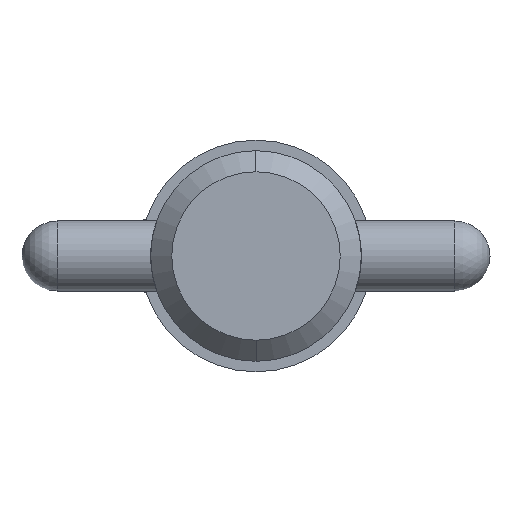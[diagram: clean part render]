
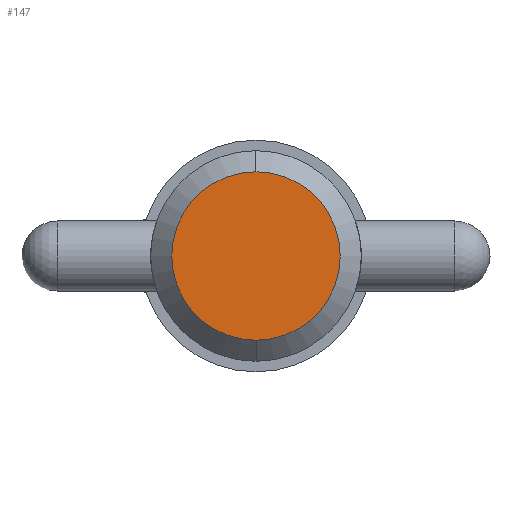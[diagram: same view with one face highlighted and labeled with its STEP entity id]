
A CAD part, left-side view. The second image highlights one B-rep face of the part: STEP entity #147.
In plain terms, the highlighted planar face has unit normal (-1, 0, 0).
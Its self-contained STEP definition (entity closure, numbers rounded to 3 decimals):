
#20 = DIRECTION ( 'NONE',  ( 1., 0., 0. ) ) ;
#27 = CARTESIAN_POINT ( 'NONE',  ( 0., 0., 5.716 ) ) ;
#59 = DIRECTION ( 'NONE',  ( 0., 0., -1. ) ) ;
#93 = CARTESIAN_POINT ( 'NONE',  ( 0., 0., 0. ) ) ;
#147 = ADVANCED_FACE ( 'NONE', ( #808 ), #483, .T. ) ;
#287 = EDGE_CURVE ( 'NONE', #451, #742, #502, .T. ) ;
#339 = CARTESIAN_POINT ( 'NONE',  ( 0., 0., -5.716 ) ) ;
#365 = AXIS2_PLACEMENT_3D ( 'NONE', #967, #20, #664 ) ;
#451 = VERTEX_POINT ( 'NONE', #27 ) ;
#467 = CARTESIAN_POINT ( 'NONE',  ( 0., 0., 0. ) ) ;
#483 = PLANE ( 'NONE',  #894 ) ;
#502 = CIRCLE ( 'NONE', #365, 5.716 ) ;
#592 = EDGE_CURVE ( 'NONE', #742, #451, #911, .T. ) ;
#624 = DIRECTION ( 'NONE',  ( 1., 0., 0. ) ) ;
#637 = AXIS2_PLACEMENT_3D ( 'NONE', #467, #624, #59 ) ;
#664 = DIRECTION ( 'NONE',  ( 0., 0., -1. ) ) ;
#694 = EDGE_LOOP ( 'NONE', ( #982, #842 ) ) ;
#742 = VERTEX_POINT ( 'NONE', #339 ) ;
#746 = DIRECTION ( 'NONE',  ( -1., 0., 0. ) ) ;
#808 = FACE_OUTER_BOUND ( 'NONE', #694, .T. ) ;
#842 = ORIENTED_EDGE ( 'NONE', *, *, #287, .F. ) ;
#891 = DIRECTION ( 'NONE',  ( 0., 0., 1. ) ) ;
#894 = AXIS2_PLACEMENT_3D ( 'NONE', #93, #746, #891 ) ;
#911 = CIRCLE ( 'NONE', #637, 5.716 ) ;
#967 = CARTESIAN_POINT ( 'NONE',  ( 0., 0., 0. ) ) ;
#982 = ORIENTED_EDGE ( 'NONE', *, *, #592, .F. ) ;
